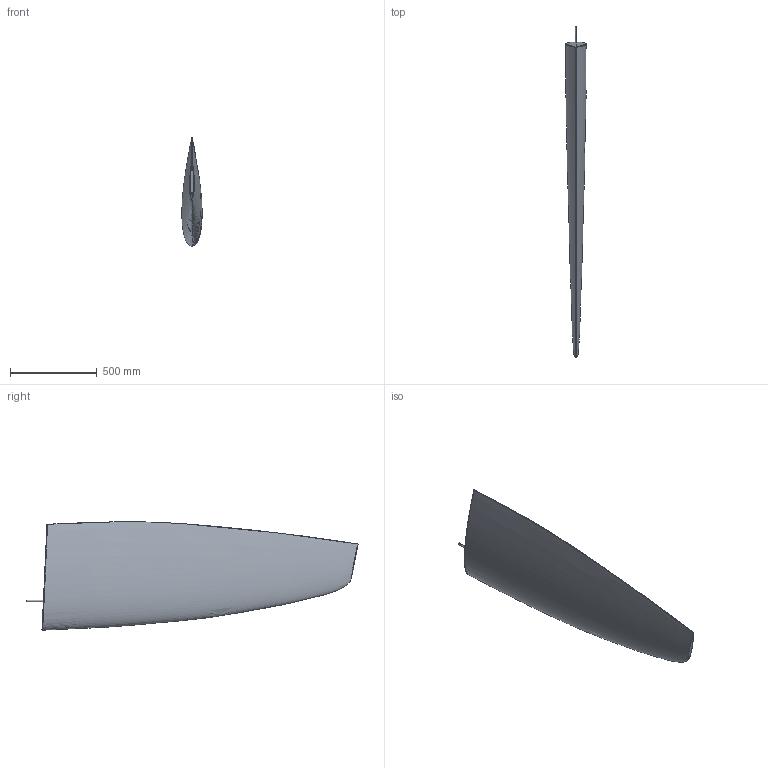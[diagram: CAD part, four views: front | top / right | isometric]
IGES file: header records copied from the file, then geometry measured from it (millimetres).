
Start section: SolidWorks IGES file using analytic representation for surfaces
Global section: file name: J:\Kartotek\Jefa Marine\GRP rudder blade\Jefa rudder blade\Rudderblade RUD40 for 36 to 44ft.IGS; native system: SolidWorks 2008; preprocessor: SolidWorks 2008; author: Klaus Jeppsen; date: 080904.132333; units: millimetre
Bounding box: 116.6 x 1914.57 x 624.88 mm (x, y, z)
Surface area: 1913039.2 mm2 (no closed solid volume)
Topology: 0 solids, 0 shells, 13 faces, 494 edges, 494 vertices
Faces by surface type: bspline 11, revolution 2
